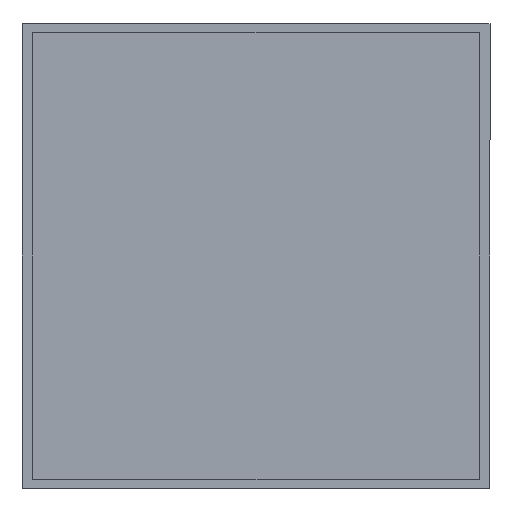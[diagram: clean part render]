
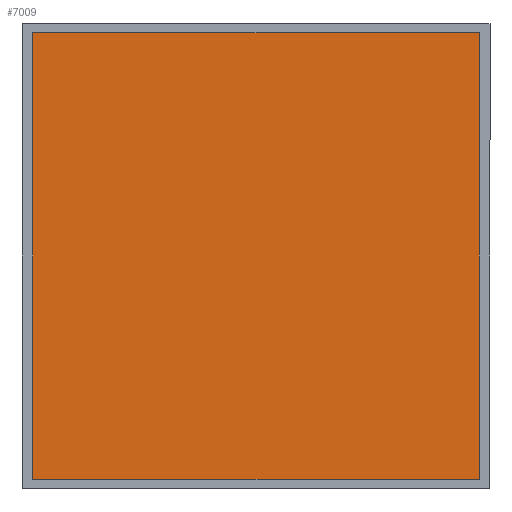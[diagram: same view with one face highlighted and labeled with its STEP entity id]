
A CAD part, front view. The second image highlights one B-rep face of the part: STEP entity #7009.
In plain terms, the highlighted planar face has unit normal (0, -1, 0).
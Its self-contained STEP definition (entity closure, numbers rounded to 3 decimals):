
#275 = EDGE_LOOP ( 'NONE', ( #1708, #1469, #7002, #2682 ) ) ;
#519 = VERTEX_POINT ( 'NONE', #4198 ) ;
#891 = AXIS2_PLACEMENT_3D ( 'NONE', #3311, #4907, #5507 ) ;
#897 = VECTOR ( 'NONE', #4309, 1000. ) ;
#942 = VERTEX_POINT ( 'NONE', #6302 ) ;
#966 = CARTESIAN_POINT ( 'NONE',  ( -13.476, -2.324, 17.577 ) ) ;
#1399 = EDGE_CURVE ( 'NONE', #6771, #942, #7269, .T. ) ;
#1469 = ORIENTED_EDGE ( 'NONE', *, *, #1580, .F. ) ;
#1580 = EDGE_CURVE ( 'NONE', #6924, #6771, #6867, .T. ) ;
#1586 = DIRECTION ( 'NONE',  ( 0., 0., 1. ) ) ;
#1708 = ORIENTED_EDGE ( 'NONE', *, *, #1399, .F. ) ;
#1854 = CARTESIAN_POINT ( 'NONE',  ( -13.476, -2.324, -20.423 ) ) ;
#2330 = EDGE_CURVE ( 'NONE', #942, #519, #5567, .T. ) ;
#2531 = CARTESIAN_POINT ( 'NONE',  ( -13.476, -2.324, -20.423 ) ) ;
#2620 = LINE ( 'NONE', #2772, #3651 ) ;
#2682 = ORIENTED_EDGE ( 'NONE', *, *, #2330, .F. ) ;
#2772 = CARTESIAN_POINT ( 'NONE',  ( 24.524, -2.324, -20.423 ) ) ;
#3057 = VECTOR ( 'NONE', #4022, 1000. ) ;
#3311 = CARTESIAN_POINT ( 'NONE',  ( -13.476, -2.324, 17.577 ) ) ;
#3651 = VECTOR ( 'NONE', #3810, 1000. ) ;
#3810 = DIRECTION ( 'NONE',  ( 0., 0., -1. ) ) ;
#4022 = DIRECTION ( 'NONE',  ( -1., 0., 0. ) ) ;
#4198 = CARTESIAN_POINT ( 'NONE',  ( 24.524, -2.324, 17.577 ) ) ;
#4309 = DIRECTION ( 'NONE',  ( 1., 0., 0. ) ) ;
#4476 = CARTESIAN_POINT ( 'NONE',  ( -13.476, -2.324, -20.423 ) ) ;
#4907 = DIRECTION ( 'NONE',  ( 0., 1., 0. ) ) ;
#5062 = CARTESIAN_POINT ( 'NONE',  ( 24.524, -2.324, -20.423 ) ) ;
#5474 = PLANE ( 'NONE',  #891 ) ;
#5507 = DIRECTION ( 'NONE',  ( 0., 0., 1. ) ) ;
#5567 = LINE ( 'NONE', #966, #897 ) ;
#5716 = VECTOR ( 'NONE', #1586, 1000. ) ;
#6002 = EDGE_CURVE ( 'NONE', #519, #6924, #2620, .T. ) ;
#6302 = CARTESIAN_POINT ( 'NONE',  ( -13.476, -2.324, 17.577 ) ) ;
#6710 = FACE_OUTER_BOUND ( 'NONE', #275, .T. ) ;
#6771 = VERTEX_POINT ( 'NONE', #2531 ) ;
#6867 = LINE ( 'NONE', #1854, #3057 ) ;
#6924 = VERTEX_POINT ( 'NONE', #5062 ) ;
#7002 = ORIENTED_EDGE ( 'NONE', *, *, #6002, .F. ) ;
#7009 = ADVANCED_FACE ( 'NONE', ( #6710 ), #5474, .F. ) ;
#7269 = LINE ( 'NONE', #4476, #5716 ) ;
